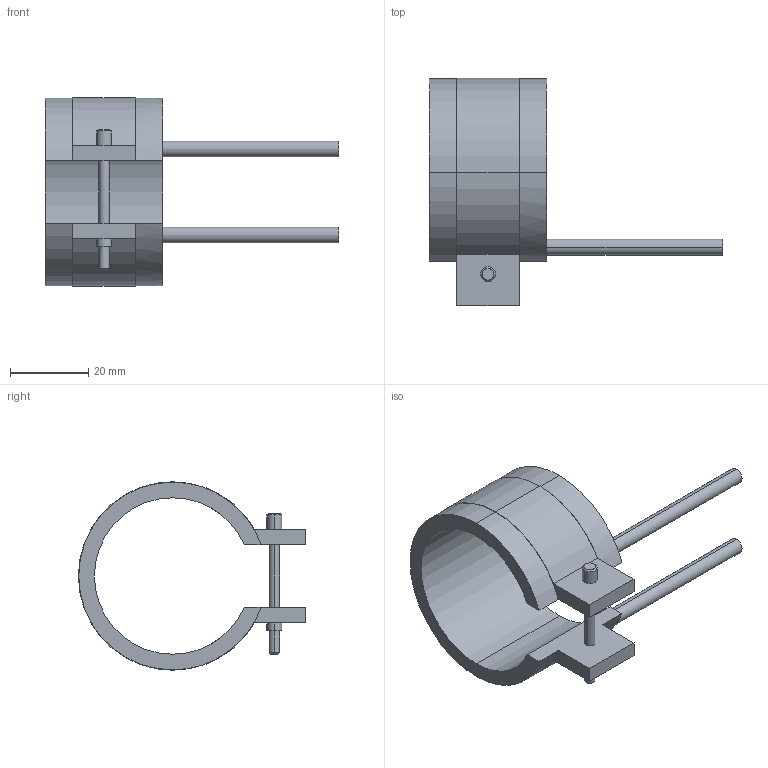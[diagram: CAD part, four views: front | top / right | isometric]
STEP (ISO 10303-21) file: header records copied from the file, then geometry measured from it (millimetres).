
FILE_DESCRIPTION(('CATIA V5 STEP Exchange'),'2;1');
FILE_NAME('C:\Users\Utente\Desktop\IO LAVORO\3D X SITO CF\X SITO\PLASTICA\RF2\14040030.stp','2021-03-31T11:31:21+00:00',('none'),('none'),'CATIA Version 5 Release 20 GA (IN-10)','CATIA V5 STEP AP203','none');
FILE_SCHEMA(('CONFIG_CONTROL_DESIGN'));
Length unit declared in the file: millimetre
Products named in the file (1): 14040030
Bounding box: 75 x 58.1 x 48.2 mm (x, y, z)
Volume: 17708.5 mm3; surface area: 10914.9 mm2
Topology: 1 solids, 1 shells, 45 faces, 116 edges, 76 vertices
Faces by surface type: cylinder 24, plane 17, cone 4
Entity records: 1394 total; most frequent: CARTESIAN_POINT 268, ORIENTED_EDGE 232, DIRECTION 196, EDGE_CURVE 116, AXIS2_PLACEMENT_3D 104, VERTEX_POINT 76, CIRCLE 62, VECTOR 52
